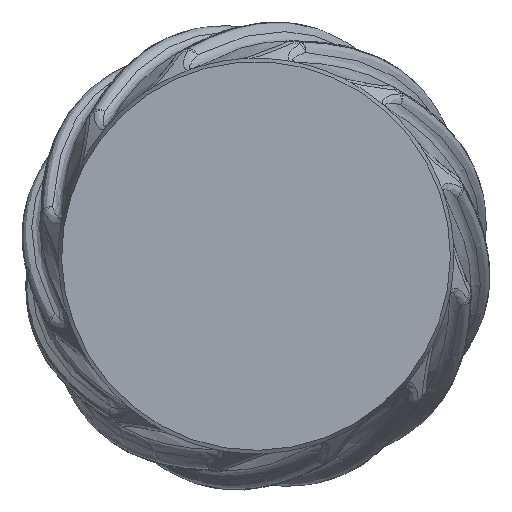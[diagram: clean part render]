
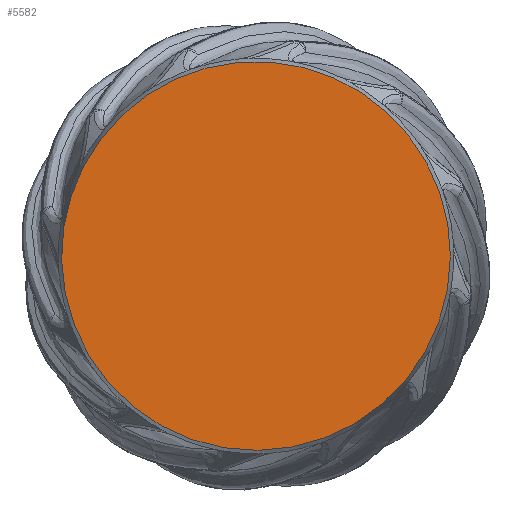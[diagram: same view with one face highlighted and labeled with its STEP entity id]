
A CAD part, left-side view. The second image highlights one B-rep face of the part: STEP entity #5582.
In plain terms, the highlighted planar face has unit normal (-1, 0, 0).
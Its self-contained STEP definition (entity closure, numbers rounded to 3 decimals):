
#98=PLANE('',#6150);
#738=FACE_OUTER_BOUND('',#1115,.T.);
#1115=EDGE_LOOP('',(#5006));
#1514=CIRCLE('',#6151,36.919);
#2500=VERTEX_POINT('',#56825);
#3365=EDGE_CURVE('',#2500,#2500,#1514,.T.);
#5006=ORIENTED_EDGE('',*,*,#3365,.F.);
#5582=ADVANCED_FACE('',(#738),#98,.T.);
#6150=AXIS2_PLACEMENT_3D('',#56824,#7227,#7228);
#6151=AXIS2_PLACEMENT_3D('',#56826,#7229,#7230);
#7227=DIRECTION('center_axis',(-1.,0.,0.));
#7228=DIRECTION('ref_axis',(0.,0.,1.));
#7229=DIRECTION('center_axis',(1.,0.,0.));
#7230=DIRECTION('ref_axis',(0.,0.,-1.));
#56824=CARTESIAN_POINT('Origin',(0.,36.919,0.));
#56825=CARTESIAN_POINT('',(0.,-36.919,0.));
#56826=CARTESIAN_POINT('Origin',(0.,0.,0.));
